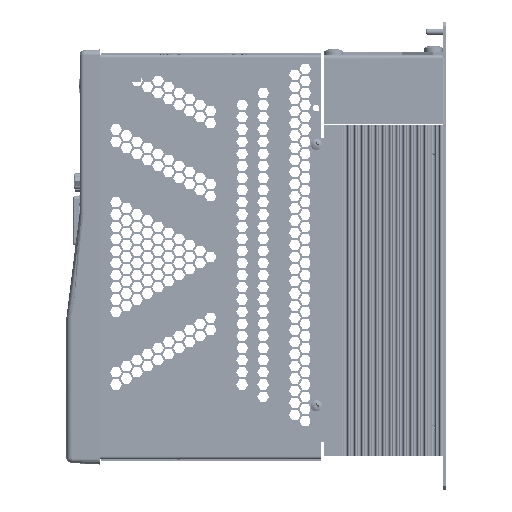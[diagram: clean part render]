
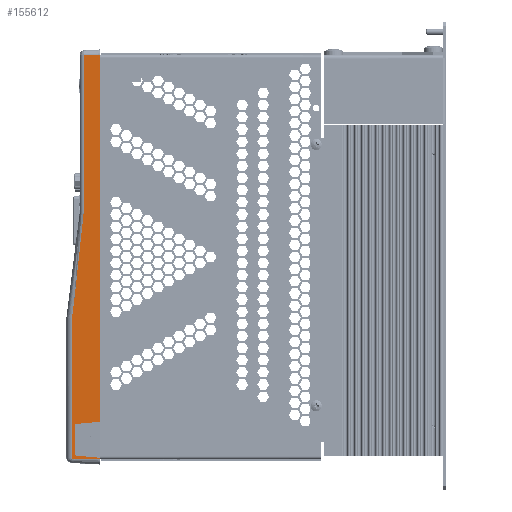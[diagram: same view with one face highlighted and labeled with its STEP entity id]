
A CAD part, left-side view. The second image highlights one B-rep face of the part: STEP entity #155612.
In plain terms, the highlighted planar face has unit normal (-0.999, 0.052, 0).
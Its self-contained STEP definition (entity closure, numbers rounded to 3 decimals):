
#74010=FACE_OUTER_BOUND('',#176844,.T.);
#97763=LINE('',#445372,#125845);
#97779=LINE('',#445416,#125861);
#97781=LINE('',#445420,#125863);
#101109=LINE('',#487301,#129207);
#101126=LINE('',#488877,#129224);
#101131=LINE('',#488887,#129229);
#101159=LINE('',#489052,#129257);
#101163=LINE('',#489068,#129261);
#101167=LINE('',#489074,#129265);
#101168=LINE('',#489076,#129266);
#125845=VECTOR('',#372275,1.);
#125861=VECTOR('',#372315,1.);
#125863=VECTOR('',#372319,1.);
#129207=VECTOR('',#378584,1.);
#129224=VECTOR('',#378719,1.);
#129229=VECTOR('',#378730,1.);
#129257=VECTOR('',#378812,1.);
#129261=VECTOR('',#378824,1.);
#129265=VECTOR('',#378832,1.);
#129266=VECTOR('',#378835,1.);
#132997=B_SPLINE_CURVE_WITH_KNOTS('',3,(#487221,#487222,#487223,#487224,
#487225,#487226,#487227,#487228,#487229,#487230,#487231,#487232,#487233,
#487234),.UNSPECIFIED.,.F.,.F.,(4,2,2,2,2,2,4),(0.,0.031,0.063,
0.125,0.25,0.5,1.),.UNSPECIFIED.);
#142874=PLANE('',#322169);
#155612=ADVANCED_FACE('',(#74010),#142874,.T.);
#176844=EDGE_LOOP('',(#240503,#240504,#240505,#240506,#240507,#240508,#240509,
#240510,#240511,#240512,#240513,#240514,#240515));
#240503=ORIENTED_EDGE('',*,*,#301002,.T.);
#240504=ORIENTED_EDGE('',*,*,#301063,.T.);
#240505=ORIENTED_EDGE('',*,*,#301050,.T.);
#240506=ORIENTED_EDGE('',*,*,#296122,.F.);
#240507=ORIENTED_EDGE('',*,*,#296101,.F.);
#240508=ORIENTED_EDGE('',*,*,#296098,.F.);
#240509=ORIENTED_EDGE('',*,*,#296094,.F.);
#240510=ORIENTED_EDGE('',*,*,#296120,.F.);
#240511=ORIENTED_EDGE('',*,*,#301058,.T.);
#240512=ORIENTED_EDGE('',*,*,#301062,.F.);
#240513=ORIENTED_EDGE('',*,*,#300914,.T.);
#240514=ORIENTED_EDGE('',*,*,#300910,.T.);
#240515=ORIENTED_EDGE('',*,*,#301008,.T.);
#264453=VERTEX_POINT('',#445364);
#264454=VERTEX_POINT('',#445365);
#264457=VERTEX_POINT('',#445373);
#264459=VERTEX_POINT('',#445379);
#264473=VERTEX_POINT('',#445417);
#264474=VERTEX_POINT('',#445421);
#267658=VERTEX_POINT('',#487219);
#267660=VERTEX_POINT('',#487235);
#267661=VERTEX_POINT('',#487298);
#267685=VERTEX_POINT('',#487605);
#267720=VERTEX_POINT('',#488196);
#267733=VERTEX_POINT('',#489053);
#267740=VERTEX_POINT('',#489067);
#296094=EDGE_CURVE('',#264453,#264454,#306937,.T.);
#296098=EDGE_CURVE('',#264454,#264457,#97763,.T.);
#296101=EDGE_CURVE('',#264457,#264459,#306939,.T.);
#296120=EDGE_CURVE('',#264473,#264453,#97779,.T.);
#296122=EDGE_CURVE('',#264459,#264474,#97781,.T.);
#300910=EDGE_CURVE('',#267660,#267658,#132997,.T.);
#300914=EDGE_CURVE('',#267661,#267660,#101109,.T.);
#301002=EDGE_CURVE('',#267685,#267720,#101126,.T.);
#301008=EDGE_CURVE('',#267658,#267685,#101131,.T.);
#301050=EDGE_CURVE('',#267733,#264474,#101159,.T.);
#301058=EDGE_CURVE('',#264473,#267740,#101163,.T.);
#301062=EDGE_CURVE('',#267661,#267740,#101167,.T.);
#301063=EDGE_CURVE('',#267720,#267733,#101168,.T.);
#306937=CIRCLE('',#320576,1.);
#306939=CIRCLE('',#320580,1.);
#320576=AXIS2_PLACEMENT_3D('',#445363,#372267,#372268);
#320580=AXIS2_PLACEMENT_3D('',#445378,#372280,#372281);
#322169=AXIS2_PLACEMENT_3D('',#489137,#378920,#378921);
#372267=DIRECTION('',(-0.999,0.052,0.));
#372268=DIRECTION('',(-0.052,-0.999,0.));
#372275=DIRECTION('',(0.,0.,-1.));
#372280=DIRECTION('',(-0.999,0.052,0.));
#372281=DIRECTION('',(0.052,0.999,0.));
#372315=DIRECTION('',(0.052,0.995,-0.087));
#372319=DIRECTION('',(-0.052,-0.995,-0.087));
#378584=DIRECTION('',(0.,0.,-1.));
#378719=DIRECTION('',(0.,0.,-1.));
#378730=DIRECTION('',(0.007,0.125,-0.992));
#378812=DIRECTION('',(0.,0.,1.));
#378824=DIRECTION('',(0.,0.,1.));
#378832=DIRECTION('',(-0.052,-0.999,0.));
#378835=DIRECTION('',(-0.052,-0.999,0.));
#378920=DIRECTION('',(-0.999,0.052,0.));
#378921=DIRECTION('',(-0.052,-0.999,0.));
#445363=CARTESIAN_POINT('',(-37.123,184.084,-151.301));
#445364=CARTESIAN_POINT('',(-37.119,184.171,-150.305));
#445365=CARTESIAN_POINT('',(-37.071,185.083,-151.301));
#445372=CARTESIAN_POINT('',(-37.071,185.083,-151.301));
#445373=CARTESIAN_POINT('',(-37.071,185.083,-165.281));
#445378=CARTESIAN_POINT('',(-37.123,184.084,-165.281));
#445379=CARTESIAN_POINT('',(-37.119,184.171,-166.278));
#445416=CARTESIAN_POINT('',(-37.725,172.6,-149.291));
#445417=CARTESIAN_POINT('',(-37.725,172.6,-149.291));
#445420=CARTESIAN_POINT('',(-37.725,172.6,-167.291));
#445421=CARTESIAN_POINT('',(-37.725,172.6,-167.291));
#487219=CARTESIAN_POINT('',(-37.062,185.253,-87.844));
#487221=CARTESIAN_POINT('',(-37.305,180.61,-44.511));
#487222=CARTESIAN_POINT('',(-37.305,180.61,-44.965));
#487223=CARTESIAN_POINT('',(-37.304,180.633,-45.418));
#487224=CARTESIAN_POINT('',(-37.301,180.688,-46.325));
#487225=CARTESIAN_POINT('',(-37.299,180.722,-46.778));
#487226=CARTESIAN_POINT('',(-37.294,180.832,-48.136));
#487227=CARTESIAN_POINT('',(-37.289,180.916,-49.04));
#487228=CARTESIAN_POINT('',(-37.275,181.178,-51.751));
#487229=CARTESIAN_POINT('',(-37.266,181.367,-53.558));
#487230=CARTESIAN_POINT('',(-37.235,181.946,-58.975));
#487231=CARTESIAN_POINT('',(-37.214,182.351,-62.585));
#487232=CARTESIAN_POINT('',(-37.15,183.578,-73.412));
#487233=CARTESIAN_POINT('',(-37.106,184.416,-80.629));
#487234=CARTESIAN_POINT('',(-37.062,185.253,-87.844));
#487235=CARTESIAN_POINT('',(-37.305,180.61,-44.511));
#487298=CARTESIAN_POINT('',(-37.305,180.61,34.7));
#487301=CARTESIAN_POINT('',(-37.305,180.61,-50.146));
#487605=CARTESIAN_POINT('',(-36.999,186.457,-97.365));
#488196=CARTESIAN_POINT('',(-36.999,186.457,-167.7));
#488877=CARTESIAN_POINT('',(-36.999,186.457,-167.7));
#488887=CARTESIAN_POINT('',(-36.552,194.99,-164.862));
#489052=CARTESIAN_POINT('',(-37.725,172.6,-167.7));
#489053=CARTESIAN_POINT('',(-37.725,172.6,-167.7));
#489067=CARTESIAN_POINT('',(-37.725,172.6,34.7));
#489068=CARTESIAN_POINT('',(-37.725,172.6,-167.7));
#489074=CARTESIAN_POINT('',(-37.725,172.6,34.7));
#489076=CARTESIAN_POINT('',(-37.725,172.6,-167.7));
#489137=CARTESIAN_POINT('',(-37.725,172.6,-167.7));
